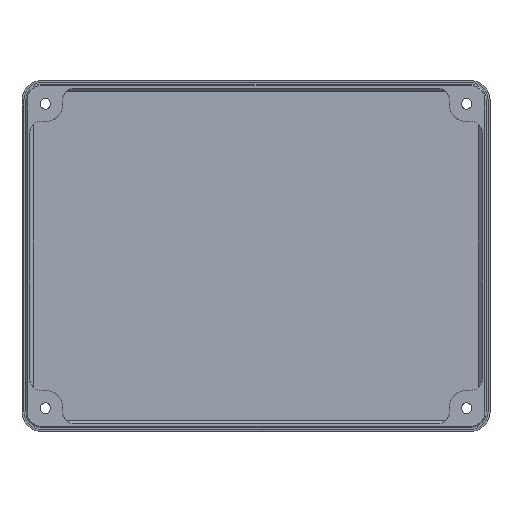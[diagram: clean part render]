
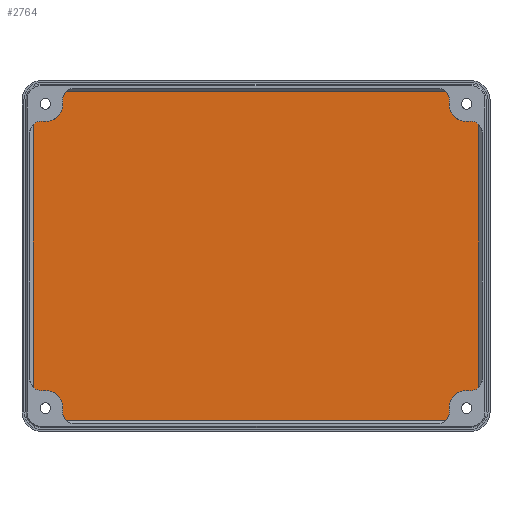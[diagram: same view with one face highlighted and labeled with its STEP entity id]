
A CAD part, top view. The second image highlights one B-rep face of the part: STEP entity #2764.
In plain terms, the highlighted planar face has unit normal (0, 0, 1).
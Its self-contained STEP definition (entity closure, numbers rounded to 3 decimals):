
#857=CARTESIAN_POINT('',(54.,42.5,-10.));
#858=DIRECTION('',(0.,0.,-1.));
#859=DIRECTION('',(0.133,-0.991,0.));
#860=AXIS2_PLACEMENT_3D('',#857,#858,#859);
#889=CARTESIAN_POINT('',(55.,35.067,-10.));
#890=DIRECTION('',(0.,0.,1.));
#891=DIRECTION('',(0.724,0.69,0.));
#892=AXIS2_PLACEMENT_3D('',#889,#890,#891);
#894=CARTESIAN_POINT('',(55.,-28.067,-10.));
#895=DIRECTION('',(0.,0.,1.));
#896=DIRECTION('',(-0.133,-0.991,0.));
#897=AXIS2_PLACEMENT_3D('',#894,#895,#896);
#899=CARTESIAN_POINT('',(46.567,-36.5,-10.));
#900=DIRECTION('',(0.,0.,1.));
#901=DIRECTION('',(0.69,-0.724,0.));
#902=AXIS2_PLACEMENT_3D('',#899,#900,#901);
#904=CARTESIAN_POINT('',(-46.567,-36.5,-10.));
#905=DIRECTION('',(0.,0.,1.));
#906=DIRECTION('',(-0.991,0.133,0.));
#907=AXIS2_PLACEMENT_3D('',#904,#905,#906);
#909=CARTESIAN_POINT('',(-55.,-28.067,-10.));
#910=DIRECTION('',(0.,0.,1.));
#911=DIRECTION('',(-0.724,-0.69,0.));
#912=AXIS2_PLACEMENT_3D('',#909,#910,#911);
#914=CARTESIAN_POINT('',(-55.,35.067,-10.));
#915=DIRECTION('',(0.,0.,1.));
#916=DIRECTION('',(0.133,0.991,0.));
#917=AXIS2_PLACEMENT_3D('',#914,#915,#916);
#919=CARTESIAN_POINT('',(-46.567,43.5,-10.));
#920=DIRECTION('',(0.,0.,1.));
#921=DIRECTION('',(-0.69,0.724,0.));
#922=AXIS2_PLACEMENT_3D('',#919,#920,#921);
#924=CARTESIAN_POINT('',(46.567,43.5,-10.));
#925=DIRECTION('',(0.,0.,1.));
#926=DIRECTION('',(0.991,-0.133,0.));
#927=AXIS2_PLACEMENT_3D('',#924,#925,#926);
#933=CARTESIAN_POINT('',(57.172,37.137,-10.));
#945=DIRECTION('',(0.,-1.,0.));
#946=VECTOR('',#945,67.274);
#947=CARTESIAN_POINT('',(57.172,37.137,-10.));
#948=LINE('',#947,#946);
#962=CARTESIAN_POINT('',(54.,-35.5,-10.));
#963=DIRECTION('',(0.,0.,-1.));
#964=DIRECTION('',(-0.991,-0.133,0.));
#965=AXIS2_PLACEMENT_3D('',#962,#963,#964);
#989=CARTESIAN_POINT('',(48.637,-38.672,-10.));
#1001=DIRECTION('',(-1.,0.,0.));
#1002=VECTOR('',#1001,97.274);
#1003=CARTESIAN_POINT('',(48.637,-38.672,-10.));
#1004=LINE('',#1003,#1002);
#1018=CARTESIAN_POINT('',(-54.,-35.5,-10.));
#1019=DIRECTION('',(0.,0.,-1.));
#1020=DIRECTION('',(-0.133,0.991,0.));
#1021=AXIS2_PLACEMENT_3D('',#1018,#1019,#1020);
#1045=CARTESIAN_POINT('',(-57.172,-30.137,-10.));
#1057=DIRECTION('',(0.,1.,0.));
#1058=VECTOR('',#1057,67.274);
#1059=CARTESIAN_POINT('',(-57.172,-30.137,-10.));
#1060=LINE('',#1059,#1058);
#1074=CARTESIAN_POINT('',(-54.,42.5,-10.));
#1075=DIRECTION('',(0.,0.,-1.));
#1076=DIRECTION('',(0.991,0.133,0.));
#1077=AXIS2_PLACEMENT_3D('',#1074,#1075,#1076);
#1103=DIRECTION('',(1.,0.,0.));
#1104=VECTOR('',#1103,97.274);
#1105=CARTESIAN_POINT('',(-48.637,45.672,-10.));
#1106=LINE('',#1105,#1104);
#1111=CARTESIAN_POINT('',(-48.637,45.672,-10.));
#1297=VERTEX_POINT('',#933);
#1298=CARTESIAN_POINT('',(54.6,38.04,-10.));
#1299=VERTEX_POINT('',#1298);
#1302=CARTESIAN_POINT('',(49.54,43.1,-10.));
#1303=CARTESIAN_POINT('',(48.637,45.672,-10.));
#1304=VERTEX_POINT('',#1302);
#1305=VERTEX_POINT('',#1303);
#1311=CARTESIAN_POINT('',(54.6,-31.04,-10.));
#1312=CARTESIAN_POINT('',(57.172,-30.137,-10.));
#1313=VERTEX_POINT('',#1311);
#1314=VERTEX_POINT('',#1312);
#1324=VERTEX_POINT('',#989);
#1325=CARTESIAN_POINT('',(49.54,-36.1,-10.));
#1326=VERTEX_POINT('',#1325);
#1329=CARTESIAN_POINT('',(-49.54,-36.1,-10.));
#1330=CARTESIAN_POINT('',(-48.637,-38.672,-10.));
#1331=VERTEX_POINT('',#1329);
#1332=VERTEX_POINT('',#1330);
#1342=VERTEX_POINT('',#1045);
#1343=CARTESIAN_POINT('',(-54.6,-31.04,-10.));
#1344=VERTEX_POINT('',#1343);
#1347=CARTESIAN_POINT('',(-54.6,38.04,-10.));
#1348=CARTESIAN_POINT('',(-57.172,37.137,-10.));
#1349=VERTEX_POINT('',#1347);
#1350=VERTEX_POINT('',#1348);
#1360=VERTEX_POINT('',#1111);
#1361=CARTESIAN_POINT('',(-49.54,43.1,-10.));
#1362=VERTEX_POINT('',#1361);
#2728=CARTESIAN_POINT('',(0.,0.,-10.));
#2729=DIRECTION('',(0.,0.,1.));
#2730=DIRECTION('',(-1.,0.,0.));
#2731=AXIS2_PLACEMENT_3D('',#2728,#2729,#2730);
#2732=PLANE('',#2731);
#2733=ORIENTED_EDGE('',*,*,#2691,.F.);
#2735=ORIENTED_EDGE('',*,*,#2734,.T.);
#2736=ORIENTED_EDGE('',*,*,#2717,.F.);
#2738=ORIENTED_EDGE('',*,*,#2737,.F.);
#2740=ORIENTED_EDGE('',*,*,#2739,.F.);
#2742=ORIENTED_EDGE('',*,*,#2741,.T.);
#2744=ORIENTED_EDGE('',*,*,#2743,.F.);
#2746=ORIENTED_EDGE('',*,*,#2745,.F.);
#2748=ORIENTED_EDGE('',*,*,#2747,.F.);
#2750=ORIENTED_EDGE('',*,*,#2749,.T.);
#2752=ORIENTED_EDGE('',*,*,#2751,.F.);
#2754=ORIENTED_EDGE('',*,*,#2753,.F.);
#2756=ORIENTED_EDGE('',*,*,#2755,.F.);
#2758=ORIENTED_EDGE('',*,*,#2757,.T.);
#2760=ORIENTED_EDGE('',*,*,#2759,.F.);
#2761=ORIENTED_EDGE('',*,*,#2674,.F.);
#2762=EDGE_LOOP('',(#2733,#2735,#2736,#2738,#2740,#2742,#2744,#2746,#2748,#2750,
#2752,#2754,#2756,#2758,#2760,#2761));
#2763=FACE_OUTER_BOUND('',#2762,.F.);
#861=CIRCLE('',#860,4.5);
#893=CIRCLE('',#892,3.);
#898=CIRCLE('',#897,3.);
#903=CIRCLE('',#902,3.);
#908=CIRCLE('',#907,3.);
#913=CIRCLE('',#912,3.);
#918=CIRCLE('',#917,3.);
#923=CIRCLE('',#922,3.);
#928=CIRCLE('',#927,3.);
#966=CIRCLE('',#965,4.5);
#1022=CIRCLE('',#1021,4.5);
#1078=CIRCLE('',#1077,4.5);
#2674=EDGE_CURVE('',#1299,#1304,#861,.T.);
#2691=EDGE_CURVE('',#1297,#1299,#893,.T.);
#2717=EDGE_CURVE('',#1313,#1314,#898,.T.);
#2734=EDGE_CURVE('',#1297,#1314,#948,.T.);
#2737=EDGE_CURVE('',#1326,#1313,#966,.T.);
#2739=EDGE_CURVE('',#1324,#1326,#903,.T.);
#2741=EDGE_CURVE('',#1324,#1332,#1004,.T.);
#2743=EDGE_CURVE('',#1331,#1332,#908,.T.);
#2745=EDGE_CURVE('',#1344,#1331,#1022,.T.);
#2747=EDGE_CURVE('',#1342,#1344,#913,.T.);
#2749=EDGE_CURVE('',#1342,#1350,#1060,.T.);
#2751=EDGE_CURVE('',#1349,#1350,#918,.T.);
#2753=EDGE_CURVE('',#1362,#1349,#1078,.T.);
#2755=EDGE_CURVE('',#1360,#1362,#923,.T.);
#2757=EDGE_CURVE('',#1360,#1305,#1106,.T.);
#2759=EDGE_CURVE('',#1304,#1305,#928,.T.);
#2764=ADVANCED_FACE('',(#2763),#2732,.T.);
